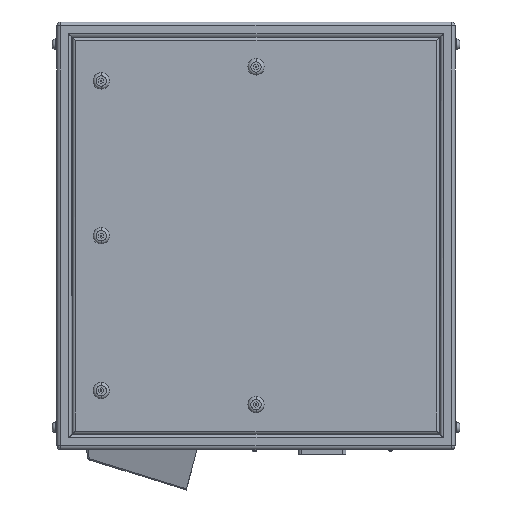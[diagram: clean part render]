
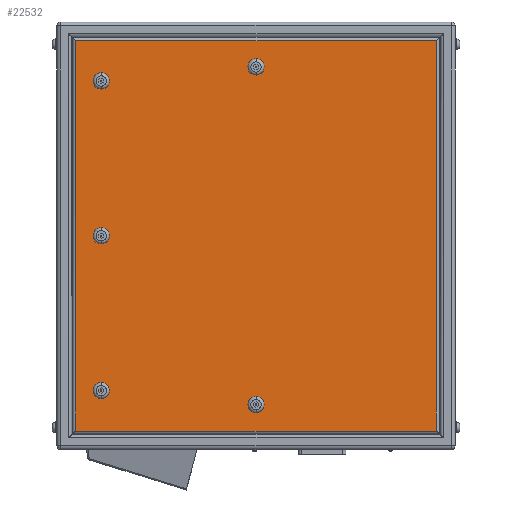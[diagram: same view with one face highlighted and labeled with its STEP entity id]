
A CAD part, left-side view. The second image highlights one B-rep face of the part: STEP entity #22532.
In plain terms, the highlighted planar face has unit normal (-1, 0, 0).
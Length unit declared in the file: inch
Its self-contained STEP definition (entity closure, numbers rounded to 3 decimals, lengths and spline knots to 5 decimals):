
#110 = FACE_OUTER_BOUND ( 'NONE', #3032, .T. ) ;
#198 = ORIENTED_EDGE ( 'NONE', *, *, #21666, .T. ) ;
#272 = DIRECTION ( 'NONE',  ( 0., 0., -1. ) ) ;
#278 = DIRECTION ( 'NONE',  ( 0., 0., -1. ) ) ;
#421 = DIRECTION ( 'NONE',  ( 1., 0., 0. ) ) ;
#461 = VERTEX_POINT ( 'NONE', #9312 ) ;
#760 = VERTEX_POINT ( 'NONE', #16419 ) ;
#832 = ORIENTED_EDGE ( 'NONE', *, *, #16509, .T. ) ;
#887 = AXIS2_PLACEMENT_3D ( 'NONE', #15631, #13566, #15406 ) ;
#988 = AXIS2_PLACEMENT_3D ( 'NONE', #18010, #421, #272 ) ;
#1121 = VERTEX_POINT ( 'NONE', #3053 ) ;
#1329 = VERTEX_POINT ( 'NONE', #10767 ) ;
#1362 = DIRECTION ( 'NONE',  ( 0., 0., -1. ) ) ;
#1466 = DIRECTION ( 'NONE',  ( 1., 0., 0. ) ) ;
#2084 = CARTESIAN_POINT ( 'NONE',  ( -8.5, 13.5, 13.24 ) ) ;
#2088 = AXIS2_PLACEMENT_3D ( 'NONE', #17439, #15334, #17215 ) ;
#2382 = EDGE_CURVE ( 'NONE', #760, #16674, #11059, .T. ) ;
#2440 = CIRCLE ( 'NONE', #887, 0.55 ) ;
#2696 = DIRECTION ( 'NONE',  ( 0., 0., -1. ) ) ;
#2854 = FACE_BOUND ( 'NONE', #12863, .T. ) ;
#3023 = EDGE_CURVE ( 'NONE', #1329, #5870, #3207, .T. ) ;
#3032 = EDGE_LOOP ( 'NONE', ( #17021, #15032, #15445, #21911 ) ) ;
#3053 = CARTESIAN_POINT ( 'NONE',  ( -8.5, 0., -10.9 ) ) ;
#3207 = CIRCLE ( 'NONE', #19968, 0.55 ) ;
#3257 = VERTEX_POINT ( 'NONE', #21024 ) ;
#3390 = CARTESIAN_POINT ( 'NONE',  ( -8.5, 12.24, -14.5 ) ) ;
#3664 = ORIENTED_EDGE ( 'NONE', *, *, #17485, .T. ) ;
#3720 = CARTESIAN_POINT ( 'NONE',  ( -8.5, 0., 10.9 ) ) ;
#3884 = DIRECTION ( 'NONE',  ( 0., 1., 0. ) ) ;
#3898 = AXIS2_PLACEMENT_3D ( 'NONE', #8383, #11875, #1362 ) ;
#4286 = VERTEX_POINT ( 'NONE', #13111 ) ;
#5064 = FACE_BOUND ( 'NONE', #13857, .T. ) ;
#5443 = LINE ( 'NONE', #9924, #14368 ) ;
#5588 = EDGE_LOOP ( 'NONE', ( #16903, #3664 ) ) ;
#5870 = VERTEX_POINT ( 'NONE', #3720 ) ;
#5948 = LINE ( 'NONE', #2084, #14618 ) ;
#6096 = EDGE_CURVE ( 'NONE', #16674, #4286, #5443, .T. ) ;
#6206 = CARTESIAN_POINT ( 'NONE',  ( -8.5, 0., -12. ) ) ;
#6377 = CIRCLE ( 'NONE', #988, 0.55 ) ;
#6379 = DIRECTION ( 'NONE',  ( 0., 0., -1. ) ) ;
#6901 = CIRCLE ( 'NONE', #15115, 0.55 ) ;
#6925 = VERTEX_POINT ( 'NONE', #16807 ) ;
#6969 = ORIENTED_EDGE ( 'NONE', *, *, #21741, .F. ) ;
#7089 = DIRECTION ( 'NONE',  ( 0., 0., 1. ) ) ;
#7480 = CARTESIAN_POINT ( 'NONE',  ( -8.5, 10.5, 9.95 ) ) ;
#7510 = PLANE ( 'NONE',  #16199 ) ;
#8033 = CARTESIAN_POINT ( 'NONE',  ( -8.5, 10.5, -10.5 ) ) ;
#8124 = CARTESIAN_POINT ( 'NONE',  ( -8.5, 10.5, -9.95 ) ) ;
#8383 = CARTESIAN_POINT ( 'NONE',  ( -8.5, 10.5, 0. ) ) ;
#8523 = EDGE_CURVE ( 'NONE', #3257, #760, #5948, .T. ) ;
#8775 = DIRECTION ( 'NONE',  ( 1., 0., 0. ) ) ;
#9312 = CARTESIAN_POINT ( 'NONE',  ( -8.5, 10.5, 11.05 ) ) ;
#9579 = VECTOR ( 'NONE', #7089, 39.37008 ) ;
#9767 = DIRECTION ( 'NONE',  ( 0., -1., 0. ) ) ;
#9924 = CARTESIAN_POINT ( 'NONE',  ( -8.5, 13.5, -13.24 ) ) ;
#10268 = DIRECTION ( 'NONE',  ( 1., 0., 0. ) ) ;
#10627 = VERTEX_POINT ( 'NONE', #8124 ) ;
#10720 = CARTESIAN_POINT ( 'NONE',  ( -8.5, 12.24, -13.24 ) ) ;
#10767 = CARTESIAN_POINT ( 'NONE',  ( -8.5, 0., 12. ) ) ;
#10830 = CARTESIAN_POINT ( 'NONE',  ( -8.5, 10.5, 0.55 ) ) ;
#11059 = LINE ( 'NONE', #3390, #16917 ) ;
#11227 = ORIENTED_EDGE ( 'NONE', *, *, #20067, .T. ) ;
#11523 = CARTESIAN_POINT ( 'NONE',  ( -8.5, 10.5, 10.5 ) ) ;
#11818 = CIRCLE ( 'NONE', #21377, 0.55 ) ;
#11875 = DIRECTION ( 'NONE',  ( 1., 0., 0. ) ) ;
#12069 = CARTESIAN_POINT ( 'NONE',  ( -8.5, 0., 11.45 ) ) ;
#12090 = DIRECTION ( 'NONE',  ( 0., 0., -1. ) ) ;
#12131 = ORIENTED_EDGE ( 'NONE', *, *, #3023, .T. ) ;
#12193 = DIRECTION ( 'NONE',  ( 0., 0., -1. ) ) ;
#12311 = DIRECTION ( 'NONE',  ( 1., 0., 0. ) ) ;
#12505 = ORIENTED_EDGE ( 'NONE', *, *, #21792, .T. ) ;
#12863 = EDGE_LOOP ( 'NONE', ( #12505, #12131 ) ) ;
#13111 = CARTESIAN_POINT ( 'NONE',  ( -8.5, -12.24, -13.24 ) ) ;
#13426 = FACE_BOUND ( 'NONE', #20681, .T. ) ;
#13566 = DIRECTION ( 'NONE',  ( 1., 0., 0. ) ) ;
#13857 = EDGE_LOOP ( 'NONE', ( #21001, #6969 ) ) ;
#13871 = DIRECTION ( 'NONE',  ( 0., 0., -1. ) ) ;
#14072 = CARTESIAN_POINT ( 'NONE',  ( -8.5, 0., 11.45 ) ) ;
#14314 = AXIS2_PLACEMENT_3D ( 'NONE', #11523, #20492, #6379 ) ;
#14368 = VECTOR ( 'NONE', #9767, 39.37008 ) ;
#14618 = VECTOR ( 'NONE', #3884, 39.37008 ) ;
#15032 = ORIENTED_EDGE ( 'NONE', *, *, #16060, .T. ) ;
#15115 = AXIS2_PLACEMENT_3D ( 'NONE', #21217, #12311, #15884 ) ;
#15170 = CIRCLE ( 'NONE', #21811, 0.55 ) ;
#15334 = DIRECTION ( 'NONE',  ( -1., 0., 0. ) ) ;
#15406 = DIRECTION ( 'NONE',  ( 0., 0., 1. ) ) ;
#15445 = ORIENTED_EDGE ( 'NONE', *, *, #8523, .T. ) ;
#15631 = CARTESIAN_POINT ( 'NONE',  ( -8.5, 0., -11.45 ) ) ;
#15871 = CARTESIAN_POINT ( 'NONE',  ( -8.5, -12.24, -14.5 ) ) ;
#15884 = DIRECTION ( 'NONE',  ( 0., 0., -1. ) ) ;
#16023 = VERTEX_POINT ( 'NONE', #10830 ) ;
#16060 = EDGE_CURVE ( 'NONE', #4286, #3257, #18737, .T. ) ;
#16199 = AXIS2_PLACEMENT_3D ( 'NONE', #21777, #16307, #278 ) ;
#16268 = CIRCLE ( 'NONE', #2088, 0.55 ) ;
#16307 = DIRECTION ( 'NONE',  ( 1., 0., 0. ) ) ;
#16419 = CARTESIAN_POINT ( 'NONE',  ( -8.5, 12.24, 13.24 ) ) ;
#16509 = EDGE_CURVE ( 'NONE', #1121, #20422, #17062, .T. ) ;
#16674 = VERTEX_POINT ( 'NONE', #10720 ) ;
#16807 = CARTESIAN_POINT ( 'NONE',  ( -8.5, 10.5, -0.55 ) ) ;
#16903 = ORIENTED_EDGE ( 'NONE', *, *, #19583, .T. ) ;
#16917 = VECTOR ( 'NONE', #12090, 39.37008 ) ;
#17021 = ORIENTED_EDGE ( 'NONE', *, *, #6096, .T. ) ;
#17062 = CIRCLE ( 'NONE', #18276, 0.55 ) ;
#17215 = DIRECTION ( 'NONE',  ( 0., 0., -1. ) ) ;
#17414 = VERTEX_POINT ( 'NONE', #18515 ) ;
#17439 = CARTESIAN_POINT ( 'NONE',  ( -8.5, 10.5, -10.5 ) ) ;
#17485 = EDGE_CURVE ( 'NONE', #461, #18561, #21659, .T. ) ;
#17592 = FACE_BOUND ( 'NONE', #19849, .T. ) ;
#18010 = CARTESIAN_POINT ( 'NONE',  ( -8.5, 10.5, 10.5 ) ) ;
#18096 = CIRCLE ( 'NONE', #3898, 0.55 ) ;
#18276 = AXIS2_PLACEMENT_3D ( 'NONE', #21181, #10268, #19332 ) ;
#18515 = CARTESIAN_POINT ( 'NONE',  ( -8.5, 10.5, -11.05 ) ) ;
#18561 = VERTEX_POINT ( 'NONE', #7480 ) ;
#18737 = LINE ( 'NONE', #15871, #9579 ) ;
#19332 = DIRECTION ( 'NONE',  ( 0., 0., 1. ) ) ;
#19365 = EDGE_CURVE ( 'NONE', #6925, #16023, #18096, .T. ) ;
#19583 = EDGE_CURVE ( 'NONE', #18561, #461, #6377, .T. ) ;
#19849 = EDGE_LOOP ( 'NONE', ( #20472, #11227 ) ) ;
#19968 = AXIS2_PLACEMENT_3D ( 'NONE', #14072, #8775, #12193 ) ;
#20067 = EDGE_CURVE ( 'NONE', #16023, #6925, #6901, .T. ) ;
#20422 = VERTEX_POINT ( 'NONE', #6206 ) ;
#20472 = ORIENTED_EDGE ( 'NONE', *, *, #19365, .T. ) ;
#20492 = DIRECTION ( 'NONE',  ( 1., 0., 0. ) ) ;
#20681 = EDGE_LOOP ( 'NONE', ( #198, #832 ) ) ;
#21001 = ORIENTED_EDGE ( 'NONE', *, *, #21638, .F. ) ;
#21024 = CARTESIAN_POINT ( 'NONE',  ( -8.5, -12.24, 13.24 ) ) ;
#21181 = CARTESIAN_POINT ( 'NONE',  ( -8.5, 0., -11.45 ) ) ;
#21217 = CARTESIAN_POINT ( 'NONE',  ( -8.5, 10.5, 0. ) ) ;
#21377 = AXIS2_PLACEMENT_3D ( 'NONE', #12069, #1466, #13871 ) ;
#21638 = EDGE_CURVE ( 'NONE', #17414, #10627, #15170, .T. ) ;
#21659 = CIRCLE ( 'NONE', #14314, 0.55 ) ;
#21666 = EDGE_CURVE ( 'NONE', #20422, #1121, #2440, .T. ) ;
#21741 = EDGE_CURVE ( 'NONE', #10627, #17414, #16268, .T. ) ;
#21777 = CARTESIAN_POINT ( 'NONE',  ( -8.5, 13.5, -14.5 ) ) ;
#21792 = EDGE_CURVE ( 'NONE', #5870, #1329, #11818, .T. ) ;
#21811 = AXIS2_PLACEMENT_3D ( 'NONE', #8033, #22199, #2696 ) ;
#21911 = ORIENTED_EDGE ( 'NONE', *, *, #2382, .T. ) ;
#21989 = FACE_BOUND ( 'NONE', #5588, .T. ) ;
#22199 = DIRECTION ( 'NONE',  ( -1., 0., 0. ) ) ;
#22532 = ADVANCED_FACE ( 'NONE', ( #13426, #2854, #17592, #5064, #21989, #110 ), #7510, .F. ) ;
